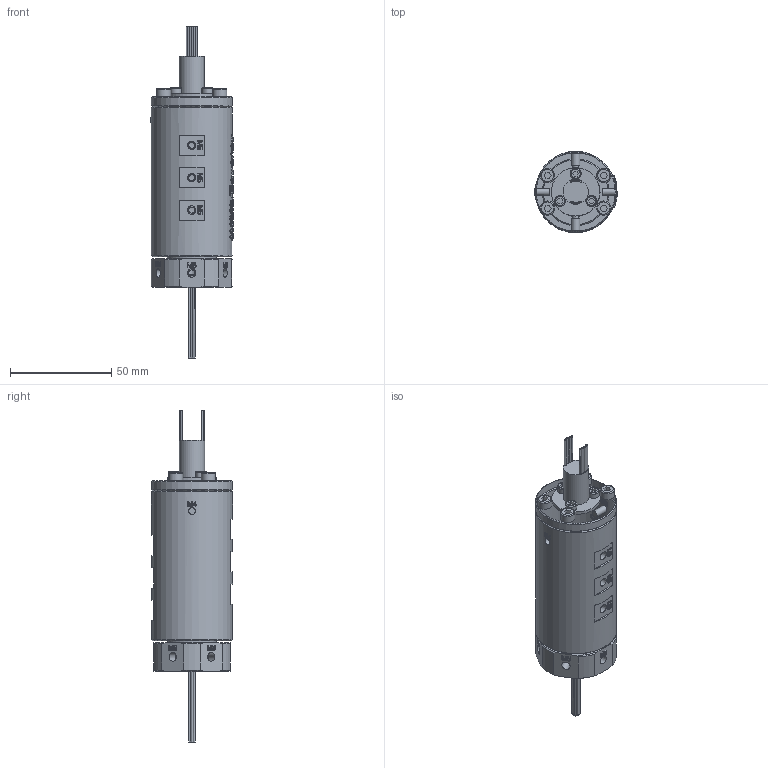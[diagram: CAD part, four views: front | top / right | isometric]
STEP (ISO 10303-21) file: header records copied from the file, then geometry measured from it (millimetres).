
FILE_DESCRIPTION(/* description */ (''),/* implementation_level */ '2;1');
FILE_NAME(/* name */ 'YQ06005-12M.stp',/* time_stamp */ '2025-09-01T16:01:08+08:00',/* author */ (''),/* organization */ (''),/* preprocessor_version */ 'ST-DEVELOPER v16.7',/* originating_system */ 'SIEMENS PLM Software NX 12.0',/* authorisation */ '');
FILE_SCHEMA (('AUTOMOTIVE_DESIGN { 1 0 10303 214 3 1 1 1 }'));
Products named in the file (1): AdmiB44865CDwd92
Bounding box: 40.7 x 40 x 163.9 mm (x, y, z)
Volume: 117504.6 mm3; surface area: 23200.3 mm2
Topology: 1 solids, 9 shells, 1577 faces, 4242 edges, 2826 vertices
Faces by surface type: plane 693, extrusion 660, cylinder 127, bspline 61, cone 29, torus 7
Full cylindrical faces by diameter (mm): 0.8 x24, 3 x15, 3.4 x9, 4 x10, 4.1 x6, 4.2 x18, 5 x1, 5.5 x3, 6 x1, 7 x4, 12.4 x1, 23.9 x1, 24 x1, 32 x1, 40 x2
Entity records: 58648 total; most frequent: CARTESIAN_POINT 25115, ORIENTED_EDGE 8092, DIRECTION 4120, EDGE_CURVE 4046, B_SPLINE_CURVE_WITH_KNOTS 3373, VERTEX_POINT 2759, EDGE_LOOP 1873, VECTOR 1580
